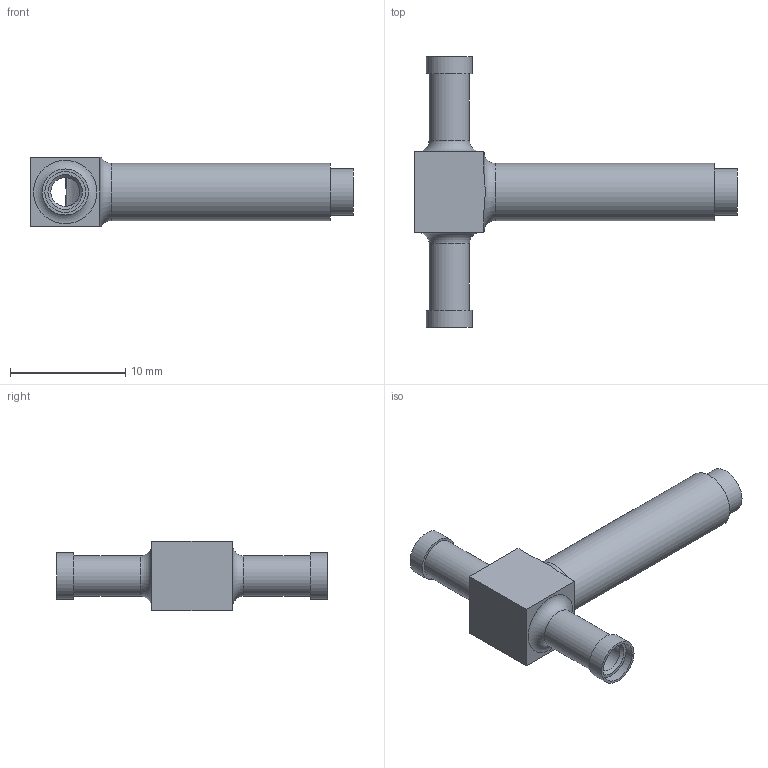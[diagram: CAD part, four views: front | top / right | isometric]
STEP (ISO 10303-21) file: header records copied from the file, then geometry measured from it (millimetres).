
FILE_DESCRIPTION(/* description */ (''),/* implementation_level */ '2;1');
FILE_NAME(/* name */ 'CMS.BTL.00000071.stp',/* time_stamp */ '2023-10-24T15:05:06+02:00',/* author */ (''),/* organization */ (''),/* preprocessor_version */ 'ST-DEVELOPER v19.4',/* originating_system */ 'SIEMENS PLM Software NX2306.5001',/* authorisation */ '');
FILE_SCHEMA (('AP203_CONFIGURATION_CONTROLLED_3D_DESIGN_OF_MECHANICAL_PARTS_AND_ASSEMBLIES_MIM_LF { 1 0 10303 403 2 1 2}'));
Length unit declared in the file: millimetre
Products named in the file (1): CMS.BTL.00000071_objects
Bounding box: 28 x 23.5 x 6 mm (x, y, z)
Volume: 673 mm3; surface area: 936 mm2
Topology: 1 solids, 1 shells, 33 faces, 69 edges, 46 vertices
Faces by surface type: plane 17, cylinder 11, torus 3, cone 2
Full cylindrical faces by diameter (mm): 2.5 x1, 3 x1, 3.5 x2, 3.55 x2, 4 x3, 5 x1
Entity records: 912 total; most frequent: CARTESIAN_POINT 203, DIRECTION 136, ORIENTED_EDGE 94, AXIS2_PLACEMENT_3D 60, EDGE_LOOP 58, FACE_BOUND 51, EDGE_CURVE 47, VERTEX_POINT 39
